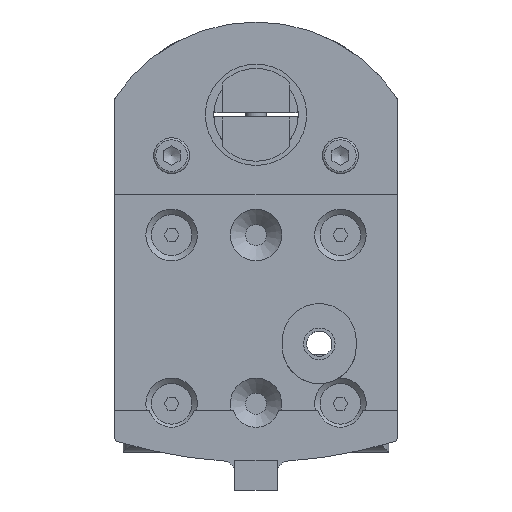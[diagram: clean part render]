
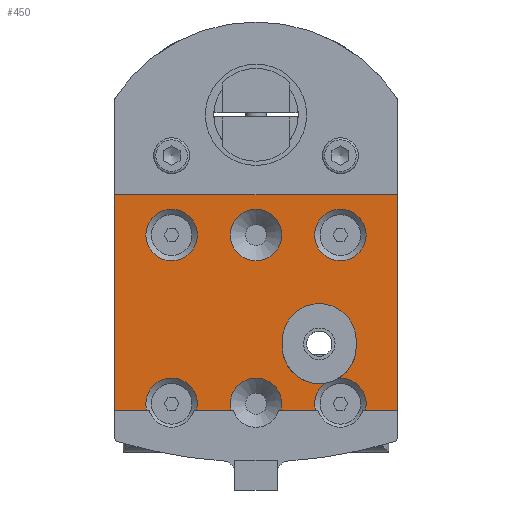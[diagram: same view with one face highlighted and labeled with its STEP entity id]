
A CAD part, front view. The second image highlights one B-rep face of the part: STEP entity #450.
In plain terms, the highlighted planar face has unit normal (0, -1, 0).
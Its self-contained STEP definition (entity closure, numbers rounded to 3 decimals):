
#450 = ADVANCED_FACE( '', ( #863, #864, #865, #866 ), #867, .T. );
#863 = FACE_OUTER_BOUND( '', #1535, .T. );
#864 = FACE_BOUND( '', #1536, .T. );
#865 = FACE_BOUND( '', #1537, .T. );
#866 = FACE_BOUND( '', #1538, .T. );
#867 = PLANE( '', #1539 );
#1535 = EDGE_LOOP( '', ( #2667, #2668, #2669, #2670, #2671, #2672, #2673, #2674, #2675, #2676, #2677, #2678, #2679, #2680, #2681, #2682 ) );
#1536 = EDGE_LOOP( '', ( #2683 ) );
#1537 = EDGE_LOOP( '', ( #2684 ) );
#1538 = EDGE_LOOP( '', ( #2685 ) );
#1539 = AXIS2_PLACEMENT_3D( '', #2686, #2687, #2688 );
#2667 = ORIENTED_EDGE( '', *, *, #4229, .F. );
#2668 = ORIENTED_EDGE( '', *, *, #4453, .F. );
#2669 = ORIENTED_EDGE( '', *, *, #4454, .F. );
#2670 = ORIENTED_EDGE( '', *, *, #4455, .F. );
#2671 = ORIENTED_EDGE( '', *, *, #4231, .F. );
#2672 = ORIENTED_EDGE( '', *, *, #4456, .T. );
#2673 = ORIENTED_EDGE( '', *, *, #4331, .F. );
#2674 = ORIENTED_EDGE( '', *, *, #4452, .T. );
#2675 = ORIENTED_EDGE( '', *, *, #4457, .T. );
#2676 = ORIENTED_EDGE( '', *, *, #4379, .T. );
#2677 = ORIENTED_EDGE( '', *, *, #4458, .F. );
#2678 = ORIENTED_EDGE( '', *, *, #4330, .T. );
#2679 = ORIENTED_EDGE( '', *, *, #4459, .F. );
#2680 = ORIENTED_EDGE( '', *, *, #4460, .T. );
#2681 = ORIENTED_EDGE( '', *, *, #4461, .F. );
#2682 = ORIENTED_EDGE( '', *, *, #4462, .T. );
#2683 = ORIENTED_EDGE( '', *, *, #4463, .F. );
#2684 = ORIENTED_EDGE( '', *, *, #4464, .F. );
#2685 = ORIENTED_EDGE( '', *, *, #4465, .F. );
#2686 = CARTESIAN_POINT( '', ( 50., -0.5, -70. ) );
#2687 = DIRECTION( '', ( 0., -1., 0. ) );
#2688 = DIRECTION( '', ( 0., 0., -1. ) );
#4229 = EDGE_CURVE( '', #4910, #4911, #4912, .T. );
#4231 = EDGE_CURVE( '', #4913, #4915, #4916, .T. );
#4330 = EDGE_CURVE( '', #5083, #5087, #5089, .F. );
#4331 = EDGE_CURVE( '', #5090, #5091, #5092, .T. );
#4379 = EDGE_CURVE( '', #5180, #5178, #5181, .T. );
#4452 = EDGE_CURVE( '', #5090, #5302, #5304, .T. );
#4453 = EDGE_CURVE( '', #5305, #4910, #5306, .T. );
#4454 = EDGE_CURVE( '', #5307, #5305, #5308, .T. );
#4455 = EDGE_CURVE( '', #4915, #5307, #5309, .T. );
#4456 = EDGE_CURVE( '', #4913, #5091, #5310, .F. );
#4457 = EDGE_CURVE( '', #5302, #5180, #5311, .T. );
#4458 = EDGE_CURVE( '', #5083, #5178, #5312, .T. );
#4459 = EDGE_CURVE( '', #5313, #5087, #5314, .T. );
#4460 = EDGE_CURVE( '', #5313, #5315, #5316, .F. );
#4461 = EDGE_CURVE( '', #5317, #5315, #5318, .T. );
#4462 = EDGE_CURVE( '', #5317, #4911, #5319, .F. );
#4463 = EDGE_CURVE( '', #5320, #5320, #5321, .T. );
#4464 = EDGE_CURVE( '', #5322, #5322, #5323, .T. );
#4465 = EDGE_CURVE( '', #5324, #5324, #5325, .T. );
#4910 = VERTEX_POINT( '', #6051 );
#4911 = VERTEX_POINT( '', #6052 );
#4912 = CIRCLE( '', #6053, 8.75 );
#4913 = VERTEX_POINT( '', #6054 );
#4915 = VERTEX_POINT( '', #6065 );
#4916 = CIRCLE( '', #6066, 8.75 );
#5083 = VERTEX_POINT( '', #6307 );
#5087 = VERTEX_POINT( '', #6314 );
#5089 = CIRCLE( '', #6319, 6.1 );
#5090 = VERTEX_POINT( '', #6320 );
#5091 = VERTEX_POINT( '', #6321 );
#5092 = LINE( '', #6322, #6323 );
#5178 = VERTEX_POINT( '', #6594 );
#5180 = VERTEX_POINT( '', #6597 );
#5181 = LINE( '', #6598, #6599 );
#5302 = VERTEX_POINT( '', #6760 );
#5304 = LINE( '', #6763, #6764 );
#5305 = VERTEX_POINT( '', #6765 );
#5306 = LINE( '', #6766, #6767 );
#5307 = VERTEX_POINT( '', #6768 );
#5308 = CIRCLE( '', #6769, 8.75 );
#5309 = LINE( '', #6770, #6771 );
#5310 = CIRCLE( '', #6772, 6.1 );
#5311 = LINE( '', #6773, #6774 );
#5312 = LINE( '', #6775, #6776 );
#5313 = VERTEX_POINT( '', #6777 );
#5314 = LINE( '', #6778, #6779 );
#5315 = VERTEX_POINT( '', #6780 );
#5316 = CIRCLE( '', #6781, 6.1 );
#5317 = VERTEX_POINT( '', #6782 );
#5318 = LINE( '', #6783, #6784 );
#5319 = CIRCLE( '', #6785, 6.1 );
#5320 = VERTEX_POINT( '', #6786 );
#5321 = CIRCLE( '', #6787, 6.1 );
#5322 = VERTEX_POINT( '', #6788 );
#5323 = CIRCLE( '', #6789, 6.1 );
#5324 = VERTEX_POINT( '', #6790 );
#5325 = CIRCLE( '', #6791, 6.1 );
#6051 = CARTESIAN_POINT( '', ( 6.25, -0.5, -55. ) );
#6052 = CARTESIAN_POINT( '', ( 16.296, -0.5, -63.654 ) );
#6053 = AXIS2_PLACEMENT_3D( '', #8189, #8190, #8191 );
#6054 = CARTESIAN_POINT( '', ( 19.654, -0.5, -62.41 ) );
#6065 = CARTESIAN_POINT( '', ( 23.75, -0.5, -55. ) );
#6066 = AXIS2_PLACEMENT_3D( '', #8192, #8193, #8194 );
#6307 = CARTESIAN_POINT( '', ( -25.913, -0.5, -70. ) );
#6314 = CARTESIAN_POINT( '', ( -14.087, -0.5, -70. ) );
#6319 = AXIS2_PLACEMENT_3D( '', #8335, #8336, #8337 );
#6320 = CARTESIAN_POINT( '', ( 33.5, -0.5, -70. ) );
#6321 = CARTESIAN_POINT( '', ( 25.913, -0.5, -70. ) );
#6322 = CARTESIAN_POINT( '', ( 50., -0.5, -70. ) );
#6323 = VECTOR( '', #8338, 1000. );
#6594 = CARTESIAN_POINT( '', ( -33.5, -0.5, -70. ) );
#6597 = CARTESIAN_POINT( '', ( -33.5, -0.5, -19. ) );
#6598 = CARTESIAN_POINT( '', ( -33.5, -0.5, -76.501 ) );
#6599 = VECTOR( '', #8411, 1000. );
#6760 = CARTESIAN_POINT( '', ( 33.5, -0.5, -19. ) );
#6763 = CARTESIAN_POINT( '', ( 33.5, -0.5, 3.558 ) );
#6764 = VECTOR( '', #8546, 1000. );
#6765 = CARTESIAN_POINT( '', ( 6.25, -0.5, -53.5 ) );
#6766 = CARTESIAN_POINT( '', ( 6.25, -0.5, -70. ) );
#6767 = VECTOR( '', #8547, 1000. );
#6768 = CARTESIAN_POINT( '', ( 23.75, -0.5, -53.5 ) );
#6769 = AXIS2_PLACEMENT_3D( '', #8548, #8549, #8550 );
#6770 = CARTESIAN_POINT( '', ( 23.75, -0.5, -70. ) );
#6771 = VECTOR( '', #8551, 1000. );
#6772 = AXIS2_PLACEMENT_3D( '', #8552, #8553, #8554 );
#6773 = CARTESIAN_POINT( '', ( 50., -0.5, -19. ) );
#6774 = VECTOR( '', #8555, 1000. );
#6775 = CARTESIAN_POINT( '', ( 50., -0.5, -70. ) );
#6776 = VECTOR( '', #8556, 1000. );
#6777 = CARTESIAN_POINT( '', ( -5.913, -0.5, -70. ) );
#6778 = CARTESIAN_POINT( '', ( 50., -0.5, -70. ) );
#6779 = VECTOR( '', #8557, 1000. );
#6780 = CARTESIAN_POINT( '', ( 5.913, -0.5, -70. ) );
#6781 = AXIS2_PLACEMENT_3D( '', #8558, #8559, #8560 );
#6782 = CARTESIAN_POINT( '', ( 14.087, -0.5, -70. ) );
#6783 = CARTESIAN_POINT( '', ( 50., -0.5, -70. ) );
#6784 = VECTOR( '', #8561, 1000. );
#6785 = AXIS2_PLACEMENT_3D( '', #8562, #8563, #8564 );
#6786 = CARTESIAN_POINT( '', ( -20., -0.5, -34.6 ) );
#6787 = AXIS2_PLACEMENT_3D( '', #8565, #8566, #8567 );
#6788 = CARTESIAN_POINT( '', ( 20., -0.5, -34.6 ) );
#6789 = AXIS2_PLACEMENT_3D( '', #8568, #8569, #8570 );
#6790 = CARTESIAN_POINT( '', ( 0., -0.5, -34.6 ) );
#6791 = AXIS2_PLACEMENT_3D( '', #8571, #8572, #8573 );
#8189 = CARTESIAN_POINT( '', ( 15., -0.5, -55. ) );
#8190 = DIRECTION( '', ( 0., -1., 0. ) );
#8191 = DIRECTION( '', ( 0., 0., -1. ) );
#8192 = CARTESIAN_POINT( '', ( 15., -0.5, -55. ) );
#8193 = DIRECTION( '', ( 0., -1., 0. ) );
#8194 = DIRECTION( '', ( 0., 0., -1. ) );
#8335 = CARTESIAN_POINT( '', ( -20., -0.5, -68.5 ) );
#8336 = DIRECTION( '', ( 0., -1., 0. ) );
#8337 = DIRECTION( '', ( 0., 0., -1. ) );
#8338 = DIRECTION( '', ( -1., 0., 0. ) );
#8411 = DIRECTION( '', ( 0., 0., -1. ) );
#8546 = DIRECTION( '', ( 0., 0., 1. ) );
#8547 = DIRECTION( '', ( 0., 0., -1. ) );
#8548 = CARTESIAN_POINT( '', ( 15., -0.5, -53.5 ) );
#8549 = DIRECTION( '', ( 0., -1., 0. ) );
#8550 = DIRECTION( '', ( 0., 0., -1. ) );
#8551 = DIRECTION( '', ( 0., 0., 1. ) );
#8552 = CARTESIAN_POINT( '', ( 20., -0.5, -68.5 ) );
#8553 = DIRECTION( '', ( 0., -1., 0. ) );
#8554 = DIRECTION( '', ( 0., 0., -1. ) );
#8555 = DIRECTION( '', ( -1., 0., 0. ) );
#8556 = DIRECTION( '', ( -1., 0., 0. ) );
#8557 = DIRECTION( '', ( -1., 0., 0. ) );
#8558 = CARTESIAN_POINT( '', ( 0., -0.5, -68.5 ) );
#8559 = DIRECTION( '', ( 0., -1., 0. ) );
#8560 = DIRECTION( '', ( 0., 0., -1. ) );
#8561 = DIRECTION( '', ( -1., 0., 0. ) );
#8562 = CARTESIAN_POINT( '', ( 20., -0.5, -68.5 ) );
#8563 = DIRECTION( '', ( 0., -1., 0. ) );
#8564 = DIRECTION( '', ( 0., 0., -1. ) );
#8565 = CARTESIAN_POINT( '', ( -20., -0.5, -28.5 ) );
#8566 = DIRECTION( '', ( 0., -1., 0. ) );
#8567 = DIRECTION( '', ( 0., 0., -1. ) );
#8568 = CARTESIAN_POINT( '', ( 20., -0.5, -28.5 ) );
#8569 = DIRECTION( '', ( 0., -1., 0. ) );
#8570 = DIRECTION( '', ( 0., 0., -1. ) );
#8571 = CARTESIAN_POINT( '', ( 0., -0.5, -28.5 ) );
#8572 = DIRECTION( '', ( 0., -1., 0. ) );
#8573 = DIRECTION( '', ( 0., 0., -1. ) );
